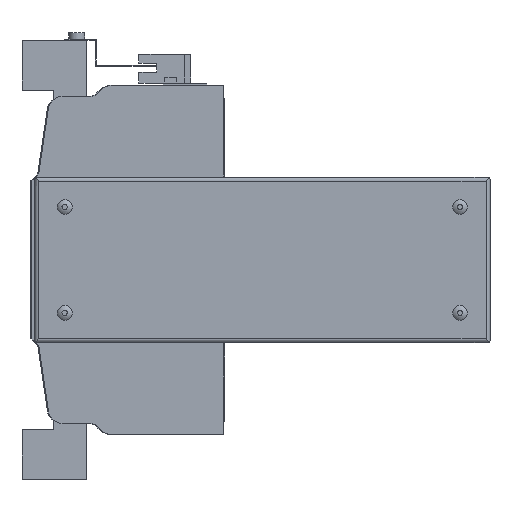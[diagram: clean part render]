
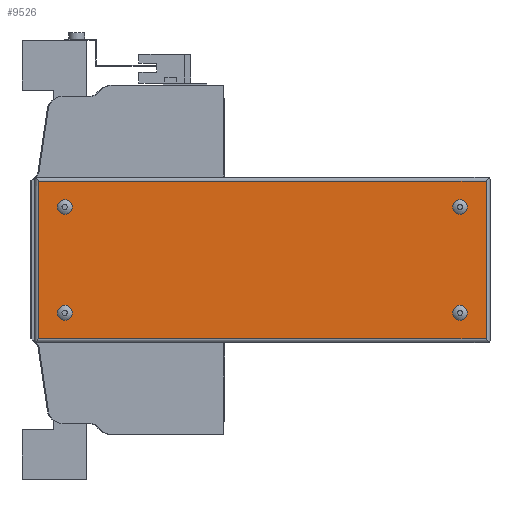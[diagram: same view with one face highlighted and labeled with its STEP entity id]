
A CAD part, left-side view. The second image highlights one B-rep face of the part: STEP entity #9526.
In plain terms, the highlighted planar face has unit normal (-1, 0, 0).
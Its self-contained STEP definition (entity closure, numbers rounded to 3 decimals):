
#275=PLANE('',#10255);
#973=LINE('',#14648,#2044);
#974=LINE('',#14651,#2045);
#975=LINE('',#14653,#2046);
#976=LINE('',#14655,#2047);
#2044=VECTOR('',#11888,1000.);
#2045=VECTOR('',#11889,1000.);
#2046=VECTOR('',#11890,1000.);
#2047=VECTOR('',#11891,1000.);
#3786=ORIENTED_EDGE('',*,*,#5913,.F.);
#3787=ORIENTED_EDGE('',*,*,#5914,.F.);
#3788=ORIENTED_EDGE('',*,*,#5915,.F.);
#3789=ORIENTED_EDGE('',*,*,#5916,.F.);
#3790=ORIENTED_EDGE('',*,*,#5917,.F.);
#3791=ORIENTED_EDGE('',*,*,#5918,.F.);
#3792=ORIENTED_EDGE('',*,*,#5919,.T.);
#3793=ORIENTED_EDGE('',*,*,#5920,.T.);
#5913=EDGE_CURVE('',#7083,#7083,#7707,.F.);
#5914=EDGE_CURVE('',#7084,#7084,#7708,.F.);
#5915=EDGE_CURVE('',#7085,#7085,#7709,.F.);
#5916=EDGE_CURVE('',#7086,#7086,#7710,.F.);
#5917=EDGE_CURVE('',#7087,#7088,#973,.T.);
#5918=EDGE_CURVE('',#7089,#7087,#974,.T.);
#5919=EDGE_CURVE('',#7089,#7090,#975,.T.);
#5920=EDGE_CURVE('',#7090,#7088,#976,.T.);
#7083=VERTEX_POINT('',#14641);
#7084=VERTEX_POINT('',#14643);
#7085=VERTEX_POINT('',#14645);
#7086=VERTEX_POINT('',#14647);
#7087=VERTEX_POINT('',#14649);
#7088=VERTEX_POINT('',#14650);
#7089=VERTEX_POINT('',#14652);
#7090=VERTEX_POINT('',#14654);
#7707=CIRCLE('',#10256,3.7);
#7708=CIRCLE('',#10257,3.7);
#7709=CIRCLE('',#10258,3.7);
#7710=CIRCLE('',#10259,3.7);
#8136=EDGE_LOOP('',(#3786));
#8137=EDGE_LOOP('',(#3787));
#8138=EDGE_LOOP('',(#3788));
#8139=EDGE_LOOP('',(#3789));
#8140=EDGE_LOOP('',(#3790,#3791,#3792,#3793));
#8801=FACE_BOUND('',#8136,.T.);
#8802=FACE_BOUND('',#8137,.T.);
#8803=FACE_BOUND('',#8138,.T.);
#8804=FACE_BOUND('',#8139,.T.);
#8805=FACE_BOUND('',#8140,.T.);
#9526=ADVANCED_FACE('',(#8801,#8802,#8803,#8804,#8805),#275,.F.);
#10255=AXIS2_PLACEMENT_3D('',#14639,#11878,#11879);
#10256=AXIS2_PLACEMENT_3D('',#14640,#11880,#11881);
#10257=AXIS2_PLACEMENT_3D('',#14642,#11882,#11883);
#10258=AXIS2_PLACEMENT_3D('',#14644,#11884,#11885);
#10259=AXIS2_PLACEMENT_3D('',#14646,#11886,#11887);
#11878=DIRECTION('',(1.,0.,0.));
#11879=DIRECTION('',(0.,0.,-1.));
#11880=DIRECTION('',(1.,0.,0.));
#11881=DIRECTION('',(0.,0.,-1.));
#11882=DIRECTION('',(1.,0.,0.));
#11883=DIRECTION('',(0.,0.,-1.));
#11884=DIRECTION('',(1.,0.,0.));
#11885=DIRECTION('',(0.,0.,-1.));
#11886=DIRECTION('',(1.,0.,0.));
#11887=DIRECTION('',(0.,0.,-1.));
#11888=DIRECTION('',(0.,-1.,0.));
#11889=DIRECTION('',(0.,0.,1.));
#11890=DIRECTION('',(0.,-1.,0.));
#11891=DIRECTION('',(0.,0.,1.));
#14639=CARTESIAN_POINT('',(-66.,-131.95,40.5));
#14640=CARTESIAN_POINT('',(-66.,-117.95,26.5));
#14641=CARTESIAN_POINT('',(-66.,-117.95,22.8));
#14642=CARTESIAN_POINT('',(-66.,-117.95,-26.5));
#14643=CARTESIAN_POINT('',(-66.,-117.95,-30.2));
#14644=CARTESIAN_POINT('',(-66.,80.05,26.5));
#14645=CARTESIAN_POINT('',(-66.,80.05,22.8));
#14646=CARTESIAN_POINT('',(-66.,80.05,-26.5));
#14647=CARTESIAN_POINT('',(-66.,80.05,-30.2));
#14648=CARTESIAN_POINT('',(-66.,228.,39.5));
#14649=CARTESIAN_POINT('',(-66.,93.05,39.5));
#14650=CARTESIAN_POINT('',(-66.,-130.95,39.5));
#14651=CARTESIAN_POINT('',(-66.,93.05,-83.));
#14652=CARTESIAN_POINT('',(-66.,93.05,-39.5));
#14653=CARTESIAN_POINT('',(-66.,228.,-39.5));
#14654=CARTESIAN_POINT('',(-66.,-130.95,-39.5));
#14655=CARTESIAN_POINT('',(-66.,-130.95,-83.));
